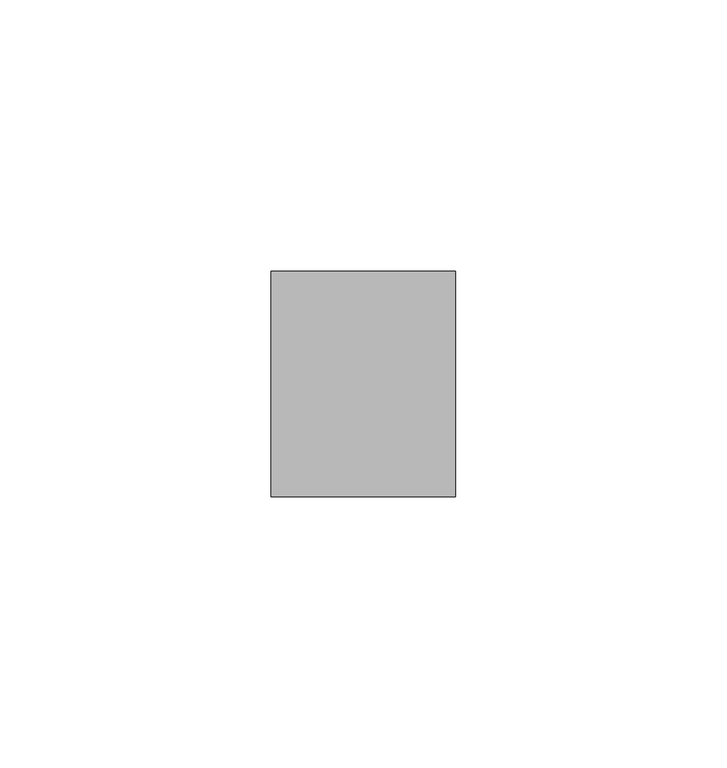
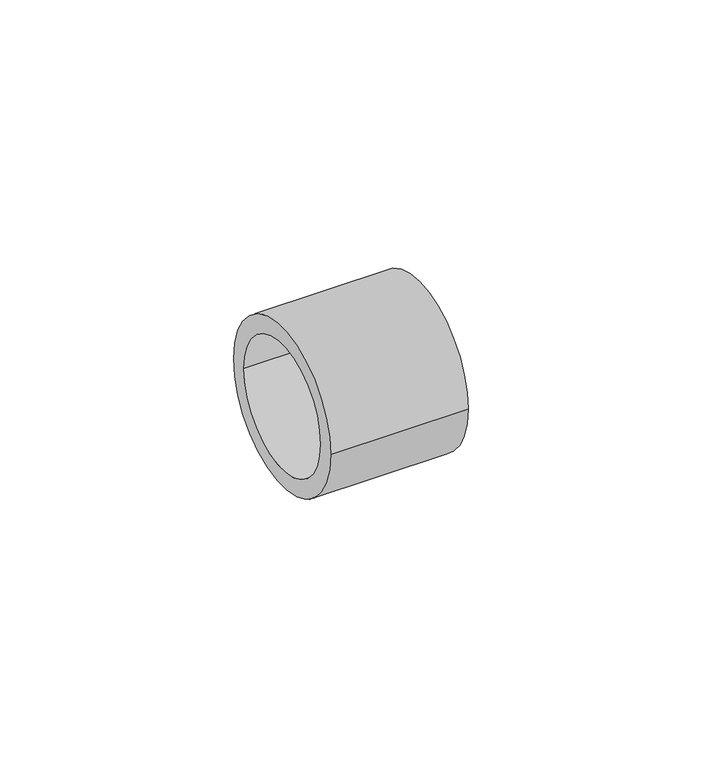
"""IFC4 building model written with IfcOpenShell, lengths in millimetres: pipe fitting geometry, RAUTITAN_Sleeve PX : RTI S PX."""

from ifc_helpers import new_model, si_unit, point, frame, origin, origin_2d, place, context, project, spatial, circle_curve, trimmed, segment, composite_curve, outline, extrude, source, transform, mapped, element, save


def pipe_fitting_a8fbe6ac(model_context):
    return source(origin(), model_context, "Body", "SweptSolid", [
        extrude(outline(composite_curve([segment(trimmed(circle_curve(origin_2d(), 20.75), [point((-20.75, 0.0))], [point((20.75, 0.0))], False, "CARTESIAN"), True, "CONTINUOUS"), segment(trimmed(circle_curve(origin_2d(), 20.75), [point((20.75, 0.0))], [point((-20.75, 0.0))], False, "CARTESIAN"), True, "CONTINUOUS")], self_intersect=False), holes=[composite_curve([segment(trimmed(circle_curve(origin_2d(), 16.35), [point((-16.35, 0.0))], [point((16.35, 0.0))], True, "CARTESIAN"), True, "CONTINUOUS"), segment(trimmed(circle_curve(origin_2d(), 16.35), [point((16.35, 0.0))], [point((-16.35, 0.0))], True, "CARTESIAN"), True, "CONTINUOUS")], self_intersect=False)]), frame((0.0, 0.0, 0.0), z_axis=(1.0, 0.0, 0.0), x_axis=(0.0, 1.0, 0.0)), (0.0, 0.0, 1.0), 34.0),
    ])


if __name__ == "__main__":
    model = new_model("IFC4")
    model_context = context("Model", 3, world=origin())
    ifc_project = project(units=[si_unit("LENGTHUNIT", "METRE", prefix="MILLI")], contexts=[model_context])
    site = spatial("IfcSite", under=ifc_project)
    building = spatial("IfcBuilding", under=site)
    placement = place(None, origin())
    pipe_fitting_shape = pipe_fitting_a8fbe6ac(model_context)
    element("IfcPipeFitting", 1, ObjectType="RAUTITAN_Sleeve PX : RTI S PX", at=placement, inside=building, context=model_context, shape_type="MappedRepresentation", body=[
        mapped(pipe_fitting_shape, transform((0.0, 0.0, 0.0), x_axis=(1.0, 0.0, 0.0), y_axis=(0.0, 1.0, 0.0), z_axis=(0.0, 0.0, 1.0))),
    ])
    save(model, "model.ifc")
